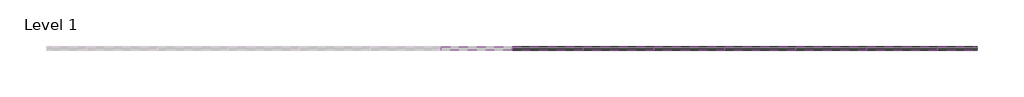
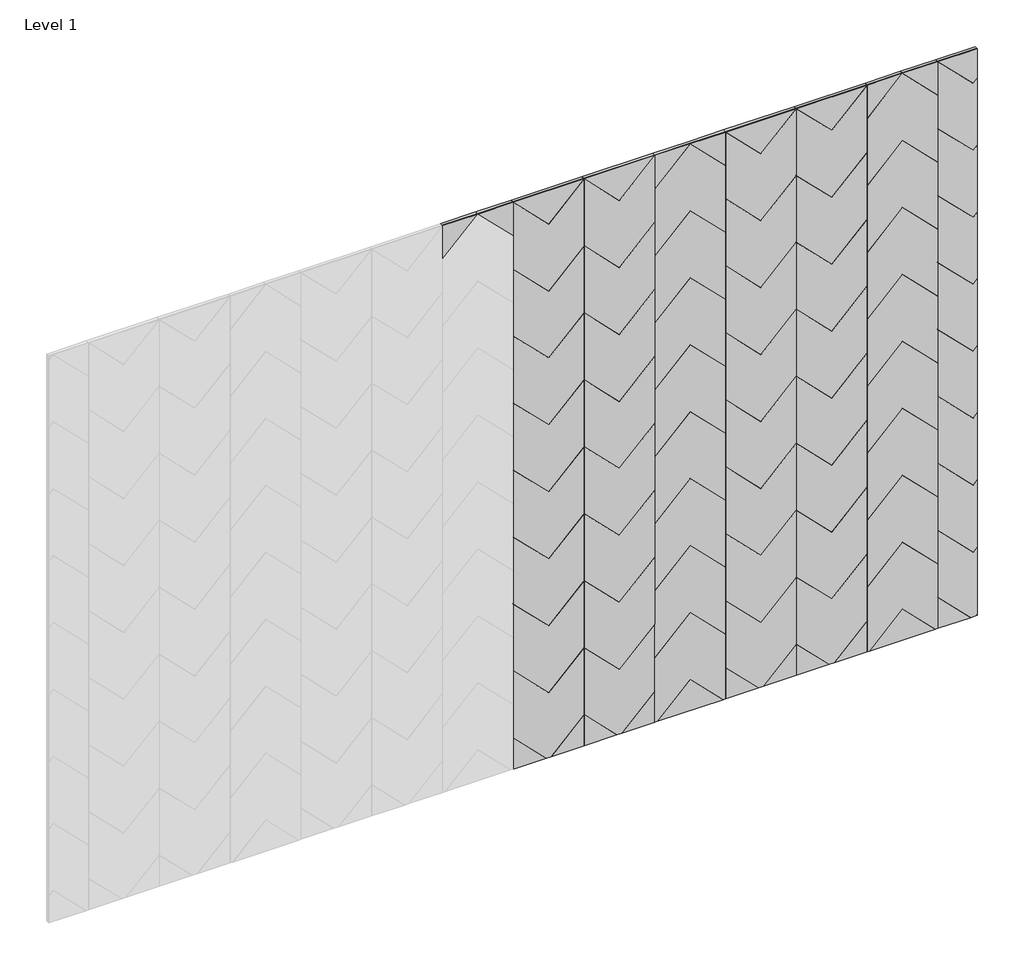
# One storey, part 2 of 2: 71 proxies.
"""IFC4 building model written with IfcOpenShell, lengths in millimetres."""

from ifc_helpers import new_model, si_unit, origin, place, context, project, spatial, transform, mapped, element, save
from components import dart_block_84291ee9, dart_block_d6e125e5, dart_block_31c125ed, dart_block_6d389e56, dart_block_a08385c4, dart_block_7aee04b3, dart_block_84e837c1, dart_block_36aabd5a, dart_block_a8ea429b, dart_block_5830dce5, dart_block_3c974cb8

model = new_model("IFC4")

# Units and contexts
model_context = context("Model", 3, world=origin())
ifc_project = project(units=[si_unit("LENGTHUNIT", "METRE", prefix="MILLI")], contexts=[model_context])

# Site, building, storey
site = spatial("IfcSite", under=ifc_project)
building = spatial("IfcBuilding", under=site)
storey = spatial("IfcBuildingStorey", under=building, Name="Level 1", Elevation=0.0)

# Proxies
placement = place(None, origin())
dart_block_shape = dart_block_84291ee9(model_context)
element("IfcBuildingElementProxy", 1, Name="FilzFelt_Dart_Block : Dart Block", ObjectType="FilzFelt_Dart_Block : Dart Block", at=placement, inside=storey, context=model_context, shape_type="MappedRepresentation", body=[
    mapped(dart_block_shape, transform((7278.9916002, -10315.1339335, 477.5), x_axis=(-1.0, 0.0, 0.0), y_axis=(0.0, 0.0, -1.0), z_axis=(0.0, -1.0, 0.0))),
])
element("IfcBuildingElementProxy", 2, Name="FilzFelt_Dart_Block : Dart Block", ObjectType="FilzFelt_Dart_Block : Dart Block", at=placement, inside=storey, context=model_context, shape_type="MappedRepresentation", body=[
    mapped(dart_block_shape, transform((7786.9916002, -10315.1339335, 477.5), x_axis=(-1.0, 0.0, 0.0), y_axis=(0.0, 0.0, -1.0), z_axis=(0.0, -1.0, 0.0))),
])
dart_block_2_shape = dart_block_d6e125e5(model_context)
element("IfcBuildingElementProxy", 3, Name="FilzFelt_Dart_Block : Dart Block", ObjectType="FilzFelt_Dart_Block : Dart Block", at=placement, inside=storey, context=model_context, shape_type="MappedRepresentation", body=[
    mapped(dart_block_2_shape, transform((7278.9916002, -10315.1339335, 731.5), x_axis=(-1.0, 0.0, 0.0), y_axis=(0.0, 0.0, -1.0), z_axis=(0.0, -1.0, 0.0))),
])
element("IfcBuildingElementProxy", 4, Name="FilzFelt_Dart_Block : Dart Block", ObjectType="FilzFelt_Dart_Block : Dart Block", at=placement, inside=storey, context=model_context, shape_type="MappedRepresentation", body=[
    mapped(dart_block_2_shape, transform((7786.9916002, -10315.1339335, 731.5), x_axis=(-1.0, 0.0, 0.0), y_axis=(0.0, 0.0, -1.0), z_axis=(0.0, -1.0, 0.0))),
])
dart_block_3_shape = dart_block_31c125ed(model_context)
element("IfcBuildingElementProxy", 5, Name="FilzFelt_Dart_Block : Dart Block", ObjectType="FilzFelt_Dart_Block : Dart Block", at=placement, inside=storey, context=model_context, shape_type="MappedRepresentation", body=[
    mapped(dart_block_3_shape, transform((7024.9916002, -10315.1339335, 1239.5), x_axis=(-1.0, 0.0, 0.0), y_axis=(0.0, 0.0, -1.0), z_axis=(0.0, -1.0, 0.0))),
])
element("IfcBuildingElementProxy", 6, Name="FilzFelt_Dart_Block : Dart Block", ObjectType="FilzFelt_Dart_Block : Dart Block", at=placement, inside=storey, context=model_context, shape_type="MappedRepresentation", body=[
    mapped(dart_block_3_shape, transform((7024.9916002, -10315.1339335, 1747.5), x_axis=(-1.0, 0.0, 0.0), y_axis=(0.0, 0.0, -1.0), z_axis=(0.0, -1.0, 0.0))),
])
element("IfcBuildingElementProxy", 7, Name="FilzFelt_Dart_Block : Dart Block", ObjectType="FilzFelt_Dart_Block : Dart Block", at=placement, inside=storey, context=model_context, shape_type="MappedRepresentation", body=[
    mapped(dart_block_3_shape, transform((7024.9916002, -10315.1339335, 2255.5), x_axis=(-1.0, 0.0, 0.0), y_axis=(0.0, 0.0, -1.0), z_axis=(0.0, -1.0, 0.0))),
])
element("IfcBuildingElementProxy", 8, Name="FilzFelt_Dart_Block : Dart Block", ObjectType="FilzFelt_Dart_Block : Dart Block", at=placement, inside=storey, context=model_context, shape_type="MappedRepresentation", body=[
    mapped(dart_block_3_shape, transform((7278.9916002, -10315.1339335, 985.5), x_axis=(-1.0, 0.0, 0.0), y_axis=(0.0, 0.0, -1.0), z_axis=(0.0, -1.0, 0.0))),
])
element("IfcBuildingElementProxy", 9, Name="FilzFelt_Dart_Block : Dart Block", ObjectType="FilzFelt_Dart_Block : Dart Block", at=placement, inside=storey, context=model_context, shape_type="MappedRepresentation", body=[
    mapped(dart_block_3_shape, transform((7278.9916002, -10315.1339335, 1493.5), x_axis=(-1.0, 0.0, 0.0), y_axis=(0.0, 0.0, -1.0), z_axis=(0.0, -1.0, 0.0))),
])
element("IfcBuildingElementProxy", 10, Name="FilzFelt_Dart_Block : Dart Block", ObjectType="FilzFelt_Dart_Block : Dart Block", at=placement, inside=storey, context=model_context, shape_type="MappedRepresentation", body=[
    mapped(dart_block_3_shape, transform((7278.9916002, -10315.1339335, 2001.5), x_axis=(-1.0, 0.0, 0.0), y_axis=(0.0, 0.0, -1.0), z_axis=(0.0, -1.0, 0.0))),
])
element("IfcBuildingElementProxy", 11, Name="FilzFelt_Dart_Block : Dart Block", ObjectType="FilzFelt_Dart_Block : Dart Block", at=placement, inside=storey, context=model_context, shape_type="MappedRepresentation", body=[
    mapped(dart_block_3_shape, transform((7278.9916002, -10315.1339335, 2509.5), x_axis=(-1.0, 0.0, 0.0), y_axis=(0.0, 0.0, -1.0), z_axis=(0.0, -1.0, 0.0))),
])
element("IfcBuildingElementProxy", 12, Name="FilzFelt_Dart_Block : Dart Block", ObjectType="FilzFelt_Dart_Block : Dart Block", at=placement, inside=storey, context=model_context, shape_type="MappedRepresentation", body=[
    mapped(dart_block_3_shape, transform((7532.9916002, -10315.1339335, 2255.5), x_axis=(1.0, 0.0, 0.0), y_axis=(0.0, 0.0, 1.0), z_axis=(0.0, -1.0, 0.0))),
])
element("IfcBuildingElementProxy", 13, Name="FilzFelt_Dart_Block : Dart Block", ObjectType="FilzFelt_Dart_Block : Dart Block", at=placement, inside=storey, context=model_context, shape_type="MappedRepresentation", body=[
    mapped(dart_block_3_shape, transform((7532.9916002, -10315.1339335, 1747.5), x_axis=(1.0, 0.0, 0.0), y_axis=(0.0, 0.0, 1.0), z_axis=(0.0, -1.0, 0.0))),
])
element("IfcBuildingElementProxy", 14, Name="FilzFelt_Dart_Block : Dart Block", ObjectType="FilzFelt_Dart_Block : Dart Block", at=placement, inside=storey, context=model_context, shape_type="MappedRepresentation", body=[
    mapped(dart_block_3_shape, transform((7532.9916002, -10315.1339335, 1239.5), x_axis=(1.0, 0.0, 0.0), y_axis=(0.0, 0.0, 1.0), z_axis=(0.0, -1.0, 0.0))),
])
element("IfcBuildingElementProxy", 15, Name="FilzFelt_Dart_Block : Dart Block", ObjectType="FilzFelt_Dart_Block : Dart Block", at=placement, inside=storey, context=model_context, shape_type="MappedRepresentation", body=[
    mapped(dart_block_3_shape, transform((7786.9916002, -10315.1339335, 985.5), x_axis=(-1.0, 0.0, 0.0), y_axis=(0.0, 0.0, -1.0), z_axis=(0.0, -1.0, 0.0))),
])
element("IfcBuildingElementProxy", 16, Name="FilzFelt_Dart_Block : Dart Block", ObjectType="FilzFelt_Dart_Block : Dart Block", at=placement, inside=storey, context=model_context, shape_type="MappedRepresentation", body=[
    mapped(dart_block_3_shape, transform((7786.9916002, -10315.1339335, 1493.5), x_axis=(-1.0, 0.0, 0.0), y_axis=(0.0, 0.0, -1.0), z_axis=(0.0, -1.0, 0.0))),
])
element("IfcBuildingElementProxy", 17, Name="FilzFelt_Dart_Block : Dart Block", ObjectType="FilzFelt_Dart_Block : Dart Block", at=placement, inside=storey, context=model_context, shape_type="MappedRepresentation", body=[
    mapped(dart_block_3_shape, transform((7786.9916002, -10315.1339335, 2001.5), x_axis=(-1.0, 0.0, 0.0), y_axis=(0.0, 0.0, -1.0), z_axis=(0.0, -1.0, 0.0))),
])
element("IfcBuildingElementProxy", 18, Name="FilzFelt_Dart_Block : Dart Block", ObjectType="FilzFelt_Dart_Block : Dart Block", at=placement, inside=storey, context=model_context, shape_type="MappedRepresentation", body=[
    mapped(dart_block_3_shape, transform((7786.9916002, -10315.1339335, 2509.5), x_axis=(-1.0, 0.0, 0.0), y_axis=(0.0, 0.0, -1.0), z_axis=(0.0, -1.0, 0.0))),
])
element("IfcBuildingElementProxy", 19, Name="FilzFelt_Dart_Block : Dart Block", ObjectType="FilzFelt_Dart_Block : Dart Block", at=placement, inside=storey, context=model_context, shape_type="MappedRepresentation", body=[
    mapped(dart_block_3_shape, transform((8040.9916002, -10315.1339335, 1239.5), x_axis=(-1.0, 0.0, 0.0), y_axis=(0.0, 0.0, -1.0), z_axis=(0.0, -1.0, 0.0))),
])
element("IfcBuildingElementProxy", 20, Name="FilzFelt_Dart_Block : Dart Block", ObjectType="FilzFelt_Dart_Block : Dart Block", at=placement, inside=storey, context=model_context, shape_type="MappedRepresentation", body=[
    mapped(dart_block_3_shape, transform((8040.9916002, -10315.1339335, 1747.5), x_axis=(-1.0, 0.0, 0.0), y_axis=(0.0, 0.0, -1.0), z_axis=(0.0, -1.0, 0.0))),
])
element("IfcBuildingElementProxy", 21, Name="FilzFelt_Dart_Block : Dart Block", ObjectType="FilzFelt_Dart_Block : Dart Block", at=placement, inside=storey, context=model_context, shape_type="MappedRepresentation", body=[
    mapped(dart_block_3_shape, transform((8040.9916002, -10315.1339335, 2255.5), x_axis=(-1.0, 0.0, 0.0), y_axis=(0.0, 0.0, -1.0), z_axis=(0.0, -1.0, 0.0))),
])
element("IfcBuildingElementProxy", 22, Name="FilzFelt_Dart_Block : Dart Block", ObjectType="FilzFelt_Dart_Block : Dart Block", at=placement, inside=storey, context=model_context, shape_type="MappedRepresentation", body=[
    mapped(dart_block_3_shape, transform((8294.9916002, -10315.1339335, 2509.5), x_axis=(1.0, 0.0, 0.0), y_axis=(0.0, 0.0, 1.0), z_axis=(0.0, -1.0, 0.0))),
])
element("IfcBuildingElementProxy", 23, Name="FilzFelt_Dart_Block : Dart Block", ObjectType="FilzFelt_Dart_Block : Dart Block", at=placement, inside=storey, context=model_context, shape_type="MappedRepresentation", body=[
    mapped(dart_block_3_shape, transform((8294.9916002, -10315.1339335, 2001.5), x_axis=(1.0, 0.0, 0.0), y_axis=(0.0, 0.0, 1.0), z_axis=(0.0, -1.0, 0.0))),
])
element("IfcBuildingElementProxy", 24, Name="FilzFelt_Dart_Block : Dart Block", ObjectType="FilzFelt_Dart_Block : Dart Block", at=placement, inside=storey, context=model_context, shape_type="MappedRepresentation", body=[
    mapped(dart_block_3_shape, transform((8294.9916002, -10315.1339335, 1493.5), x_axis=(1.0, 0.0, 0.0), y_axis=(0.0, 0.0, 1.0), z_axis=(0.0, -1.0, 0.0))),
])
element("IfcBuildingElementProxy", 25, Name="FilzFelt_Dart_Block : Dart Block", ObjectType="FilzFelt_Dart_Block : Dart Block", at=placement, inside=storey, context=model_context, shape_type="MappedRepresentation", body=[
    mapped(dart_block_3_shape, transform((8294.9916002, -10315.1339335, 985.5), x_axis=(1.0, 0.0, 0.0), y_axis=(0.0, 0.0, 1.0), z_axis=(0.0, -1.0, 0.0))),
])
element("IfcBuildingElementProxy", 26, Name="FilzFelt_Dart_Block : Dart Block", ObjectType="FilzFelt_Dart_Block : Dart Block", at=placement, inside=storey, context=model_context, shape_type="MappedRepresentation", body=[
    mapped(dart_block_3_shape, transform((7024.9916002, -10315.1339335, 2509.5), x_axis=(-1.0, 0.0, 0.0), y_axis=(0.0, 0.0, -1.0), z_axis=(0.0, -1.0, 0.0))),
])
element("IfcBuildingElementProxy", 27, Name="FilzFelt_Dart_Block : Dart Block", ObjectType="FilzFelt_Dart_Block : Dart Block", at=placement, inside=storey, context=model_context, shape_type="MappedRepresentation", body=[
    mapped(dart_block_3_shape, transform((7024.9916002, -10315.1339335, 985.5), x_axis=(-1.0, 0.0, 0.0), y_axis=(0.0, 0.0, -1.0), z_axis=(0.0, -1.0, 0.0))),
])
element("IfcBuildingElementProxy", 28, Name="FilzFelt_Dart_Block : Dart Block", ObjectType="FilzFelt_Dart_Block : Dart Block", at=placement, inside=storey, context=model_context, shape_type="MappedRepresentation", body=[
    mapped(dart_block_3_shape, transform((7024.9916002, -10315.1339335, 1493.5), x_axis=(-1.0, 0.0, 0.0), y_axis=(0.0, 0.0, -1.0), z_axis=(0.0, -1.0, 0.0))),
])
element("IfcBuildingElementProxy", 29, Name="FilzFelt_Dart_Block : Dart Block", ObjectType="FilzFelt_Dart_Block : Dart Block", at=placement, inside=storey, context=model_context, shape_type="MappedRepresentation", body=[
    mapped(dart_block_3_shape, transform((7024.9916002, -10315.1339335, 2001.5), x_axis=(-1.0, 0.0, 0.0), y_axis=(0.0, 0.0, -1.0), z_axis=(0.0, -1.0, 0.0))),
])
element("IfcBuildingElementProxy", 30, Name="FilzFelt_Dart_Block : Dart Block", ObjectType="FilzFelt_Dart_Block : Dart Block", at=placement, inside=storey, context=model_context, shape_type="MappedRepresentation", body=[
    mapped(dart_block_3_shape, transform((7278.9916002, -10315.1339335, 1239.5), x_axis=(-1.0, 0.0, 0.0), y_axis=(0.0, 0.0, -1.0), z_axis=(0.0, -1.0, 0.0))),
])
element("IfcBuildingElementProxy", 31, Name="FilzFelt_Dart_Block : Dart Block", ObjectType="FilzFelt_Dart_Block : Dart Block", at=placement, inside=storey, context=model_context, shape_type="MappedRepresentation", body=[
    mapped(dart_block_3_shape, transform((7278.9916002, -10315.1339335, 1747.5), x_axis=(-1.0, 0.0, 0.0), y_axis=(0.0, 0.0, -1.0), z_axis=(0.0, -1.0, 0.0))),
])
element("IfcBuildingElementProxy", 32, Name="FilzFelt_Dart_Block : Dart Block", ObjectType="FilzFelt_Dart_Block : Dart Block", at=placement, inside=storey, context=model_context, shape_type="MappedRepresentation", body=[
    mapped(dart_block_3_shape, transform((7278.9916002, -10315.1339335, 2255.5), x_axis=(-1.0, 0.0, 0.0), y_axis=(0.0, 0.0, -1.0), z_axis=(0.0, -1.0, 0.0))),
])
element("IfcBuildingElementProxy", 33, Name="FilzFelt_Dart_Block : Dart Block", ObjectType="FilzFelt_Dart_Block : Dart Block", at=placement, inside=storey, context=model_context, shape_type="MappedRepresentation", body=[
    mapped(dart_block_3_shape, transform((7532.9916002, -10315.1339335, 2509.5), x_axis=(1.0, 0.0, 0.0), y_axis=(0.0, 0.0, 1.0), z_axis=(0.0, -1.0, 0.0))),
])
element("IfcBuildingElementProxy", 34, Name="FilzFelt_Dart_Block : Dart Block", ObjectType="FilzFelt_Dart_Block : Dart Block", at=placement, inside=storey, context=model_context, shape_type="MappedRepresentation", body=[
    mapped(dart_block_3_shape, transform((7532.9916002, -10315.1339335, 2001.5), x_axis=(1.0, 0.0, 0.0), y_axis=(0.0, 0.0, 1.0), z_axis=(0.0, -1.0, 0.0))),
])
element("IfcBuildingElementProxy", 35, Name="FilzFelt_Dart_Block : Dart Block", ObjectType="FilzFelt_Dart_Block : Dart Block", at=placement, inside=storey, context=model_context, shape_type="MappedRepresentation", body=[
    mapped(dart_block_3_shape, transform((7532.9916002, -10315.1339335, 1493.5), x_axis=(1.0, 0.0, 0.0), y_axis=(0.0, 0.0, 1.0), z_axis=(0.0, -1.0, 0.0))),
])
element("IfcBuildingElementProxy", 36, Name="FilzFelt_Dart_Block : Dart Block", ObjectType="FilzFelt_Dart_Block : Dart Block", at=placement, inside=storey, context=model_context, shape_type="MappedRepresentation", body=[
    mapped(dart_block_3_shape, transform((7532.9916002, -10315.1339335, 985.5), x_axis=(1.0, 0.0, 0.0), y_axis=(0.0, 0.0, 1.0), z_axis=(0.0, -1.0, 0.0))),
])
element("IfcBuildingElementProxy", 37, Name="FilzFelt_Dart_Block : Dart Block", ObjectType="FilzFelt_Dart_Block : Dart Block", at=placement, inside=storey, context=model_context, shape_type="MappedRepresentation", body=[
    mapped(dart_block_3_shape, transform((7786.9916002, -10315.1339335, 1239.5), x_axis=(-1.0, 0.0, 0.0), y_axis=(0.0, 0.0, -1.0), z_axis=(0.0, -1.0, 0.0))),
])
element("IfcBuildingElementProxy", 38, Name="FilzFelt_Dart_Block : Dart Block", ObjectType="FilzFelt_Dart_Block : Dart Block", at=placement, inside=storey, context=model_context, shape_type="MappedRepresentation", body=[
    mapped(dart_block_3_shape, transform((7786.9916002, -10315.1339335, 1747.5), x_axis=(-1.0, 0.0, 0.0), y_axis=(0.0, 0.0, -1.0), z_axis=(0.0, -1.0, 0.0))),
])
element("IfcBuildingElementProxy", 39, Name="FilzFelt_Dart_Block : Dart Block", ObjectType="FilzFelt_Dart_Block : Dart Block", at=placement, inside=storey, context=model_context, shape_type="MappedRepresentation", body=[
    mapped(dart_block_3_shape, transform((7786.9916002, -10315.1339335, 2255.5), x_axis=(-1.0, 0.0, 0.0), y_axis=(0.0, 0.0, -1.0), z_axis=(0.0, -1.0, 0.0))),
])
element("IfcBuildingElementProxy", 40, Name="FilzFelt_Dart_Block : Dart Block", ObjectType="FilzFelt_Dart_Block : Dart Block", at=placement, inside=storey, context=model_context, shape_type="MappedRepresentation", body=[
    mapped(dart_block_3_shape, transform((8040.9916002, -10315.1339335, 985.5), x_axis=(-1.0, 0.0, 0.0), y_axis=(0.0, 0.0, -1.0), z_axis=(0.0, -1.0, 0.0))),
])
element("IfcBuildingElementProxy", 41, Name="FilzFelt_Dart_Block : Dart Block", ObjectType="FilzFelt_Dart_Block : Dart Block", at=placement, inside=storey, context=model_context, shape_type="MappedRepresentation", body=[
    mapped(dart_block_3_shape, transform((8040.9916002, -10315.1339335, 1493.5), x_axis=(-1.0, 0.0, 0.0), y_axis=(0.0, 0.0, -1.0), z_axis=(0.0, -1.0, 0.0))),
])
element("IfcBuildingElementProxy", 42, Name="FilzFelt_Dart_Block : Dart Block", ObjectType="FilzFelt_Dart_Block : Dart Block", at=placement, inside=storey, context=model_context, shape_type="MappedRepresentation", body=[
    mapped(dart_block_3_shape, transform((8040.9916002, -10315.1339335, 2001.5), x_axis=(-1.0, 0.0, 0.0), y_axis=(0.0, 0.0, -1.0), z_axis=(0.0, -1.0, 0.0))),
])
element("IfcBuildingElementProxy", 43, Name="FilzFelt_Dart_Block : Dart Block", ObjectType="FilzFelt_Dart_Block : Dart Block", at=placement, inside=storey, context=model_context, shape_type="MappedRepresentation", body=[
    mapped(dart_block_3_shape, transform((8040.9916002, -10315.1339335, 2509.5), x_axis=(-1.0, 0.0, 0.0), y_axis=(0.0, 0.0, -1.0), z_axis=(0.0, -1.0, 0.0))),
])
element("IfcBuildingElementProxy", 44, Name="FilzFelt_Dart_Block : Dart Block", ObjectType="FilzFelt_Dart_Block : Dart Block", at=placement, inside=storey, context=model_context, shape_type="MappedRepresentation", body=[
    mapped(dart_block_3_shape, transform((8294.9916002, -10315.1339335, 2255.5), x_axis=(1.0, 0.0, 0.0), y_axis=(0.0, 0.0, 1.0), z_axis=(0.0, -1.0, 0.0))),
])
element("IfcBuildingElementProxy", 45, Name="FilzFelt_Dart_Block : Dart Block", ObjectType="FilzFelt_Dart_Block : Dart Block", at=placement, inside=storey, context=model_context, shape_type="MappedRepresentation", body=[
    mapped(dart_block_3_shape, transform((8294.9916002, -10315.1339335, 1747.5), x_axis=(1.0, 0.0, 0.0), y_axis=(0.0, 0.0, 1.0), z_axis=(0.0, -1.0, 0.0))),
])
element("IfcBuildingElementProxy", 46, Name="FilzFelt_Dart_Block : Dart Block", ObjectType="FilzFelt_Dart_Block : Dart Block", at=placement, inside=storey, context=model_context, shape_type="MappedRepresentation", body=[
    mapped(dart_block_3_shape, transform((8294.9916002, -10315.1339335, 1239.5), x_axis=(1.0, 0.0, 0.0), y_axis=(0.0, 0.0, 1.0), z_axis=(0.0, -1.0, 0.0))),
])
dart_block_4_shape = dart_block_6d389e56(model_context)
element("IfcBuildingElementProxy", 47, Name="FilzFelt_Dart_Block : Dart Block", ObjectType="FilzFelt_Dart_Block : Dart Block", at=placement, inside=storey, context=model_context, shape_type="MappedRepresentation", body=[
    mapped(dart_block_4_shape, transform((7278.9916002, -10315.1339335, 2763.5), x_axis=(-1.0, 0.0, 0.0), y_axis=(0.0, 0.0, -1.0), z_axis=(0.0, -1.0, 0.0))),
])
element("IfcBuildingElementProxy", 48, Name="FilzFelt_Dart_Block : Dart Block", ObjectType="FilzFelt_Dart_Block : Dart Block", at=placement, inside=storey, context=model_context, shape_type="MappedRepresentation", body=[
    mapped(dart_block_4_shape, transform((7786.9916002, -10315.1339335, 2763.5), x_axis=(-1.0, 0.0, 0.0), y_axis=(0.0, 0.0, -1.0), z_axis=(0.0, -1.0, 0.0))),
])
element("IfcBuildingElementProxy", 49, Name="FilzFelt_Dart_Block : Dart Block", ObjectType="FilzFelt_Dart_Block : Dart Block", at=placement, inside=storey, context=model_context, shape_type="MappedRepresentation", body=[
    mapped(dart_block_shape, transform((7024.9916002, -10315.1339335, 477.5), x_axis=(-1.0, 0.0, 0.0), y_axis=(0.0, 0.0, -1.0), z_axis=(0.0, -1.0, 0.0))),
])
element("IfcBuildingElementProxy", 50, Name="FilzFelt_Dart_Block : Dart Block", ObjectType="FilzFelt_Dart_Block : Dart Block", at=placement, inside=storey, context=model_context, shape_type="MappedRepresentation", body=[
    mapped(dart_block_shape, transform((8040.9916002, -10315.1339335, 477.5), x_axis=(-1.0, 0.0, 0.0), y_axis=(0.0, 0.0, -1.0), z_axis=(0.0, -1.0, 0.0))),
])
element("IfcBuildingElementProxy", 51, Name="FilzFelt_Dart_Block : Dart Block", ObjectType="FilzFelt_Dart_Block : Dart Block", at=placement, inside=storey, context=model_context, shape_type="MappedRepresentation", body=[
    mapped(dart_block_2_shape, transform((7024.9916002, -10315.1339335, 731.5), x_axis=(-1.0, 0.0, 0.0), y_axis=(0.0, 0.0, -1.0), z_axis=(0.0, -1.0, 0.0))),
])
element("IfcBuildingElementProxy", 52, Name="FilzFelt_Dart_Block : Dart Block", ObjectType="FilzFelt_Dart_Block : Dart Block", at=placement, inside=storey, context=model_context, shape_type="MappedRepresentation", body=[
    mapped(dart_block_2_shape, transform((8040.9916002, -10315.1339335, 731.5), x_axis=(-1.0, 0.0, 0.0), y_axis=(0.0, 0.0, -1.0), z_axis=(0.0, -1.0, 0.0))),
])
element("IfcBuildingElementProxy", 53, Name="FilzFelt_Dart_Block : Dart Block", ObjectType="FilzFelt_Dart_Block : Dart Block", at=placement, inside=storey, context=model_context, shape_type="MappedRepresentation", body=[
    mapped(dart_block_4_shape, transform((7024.9916002, -10315.1339335, 2763.5), x_axis=(-1.0, 0.0, 0.0), y_axis=(0.0, 0.0, -1.0), z_axis=(0.0, -1.0, 0.0))),
])
element("IfcBuildingElementProxy", 54, Name="FilzFelt_Dart_Block : Dart Block", ObjectType="FilzFelt_Dart_Block : Dart Block", at=placement, inside=storey, context=model_context, shape_type="MappedRepresentation", body=[
    mapped(dart_block_4_shape, transform((8040.9916002, -10315.1339335, 2763.5), x_axis=(-1.0, 0.0, 0.0), y_axis=(0.0, 0.0, -1.0), z_axis=(0.0, -1.0, 0.0))),
])
dart_block_5_shape = dart_block_a08385c4(model_context)
element("IfcBuildingElementProxy", 55, Name="FilzFelt_Dart_Block : Dart Block", ObjectType="FilzFelt_Dart_Block : Dart Block", at=placement, inside=storey, context=model_context, shape_type="MappedRepresentation", body=[
    mapped(dart_block_5_shape, transform((8294.9916002, -10315.1339335, 731.5), x_axis=(1.0, 0.0, 0.0), y_axis=(0.0, 0.0, 1.0), z_axis=(0.0, -1.0, 0.0))),
])
dart_block_6_shape = dart_block_7aee04b3(model_context)
element("IfcBuildingElementProxy", 56, Name="FilzFelt_Dart_Block : Dart Block", ObjectType="FilzFelt_Dart_Block : Dart Block", at=placement, inside=storey, context=model_context, shape_type="MappedRepresentation", body=[
    mapped(dart_block_6_shape, transform((8294.9916002, -10315.1339335, 477.5), x_axis=(1.0, 0.0, 0.0), y_axis=(0.0, 0.0, 1.0), z_axis=(0.0, -1.0, 0.0))),
])
dart_block_7_shape = dart_block_84e837c1(model_context)
element("IfcBuildingElementProxy", 57, Name="FilzFelt_Dart_Block : Dart Block", ObjectType="FilzFelt_Dart_Block : Dart Block", at=placement, inside=storey, context=model_context, shape_type="MappedRepresentation", body=[
    mapped(dart_block_7_shape, transform((6770.9916002, -10315.1339335, 2763.5), x_axis=(1.0, 0.0, 0.0), y_axis=(0.0, 0.0, 1.0), z_axis=(0.0, -1.0, 0.0))),
])
element("IfcBuildingElementProxy", 58, Name="FilzFelt_Dart_Block : Dart Block", ObjectType="FilzFelt_Dart_Block : Dart Block", at=placement, inside=storey, context=model_context, shape_type="MappedRepresentation", body=[
    mapped(dart_block_7_shape, transform((8294.9916002, -10315.1339335, 2763.5), x_axis=(1.0, 0.0, 0.0), y_axis=(0.0, 0.0, 1.0), z_axis=(0.0, -1.0, 0.0))),
])
element("IfcBuildingElementProxy", 59, Name="FilzFelt_Dart_Block : Dart Block", ObjectType="FilzFelt_Dart_Block : Dart Block", at=placement, inside=storey, context=model_context, shape_type="MappedRepresentation", body=[
    mapped(dart_block_7_shape, transform((7532.9916002, -10315.1339335, 2763.5), x_axis=(1.0, 0.0, 0.0), y_axis=(0.0, 0.0, 1.0), z_axis=(0.0, -1.0, 0.0))),
])
element("IfcBuildingElementProxy", 60, Name="FilzFelt_Dart_Block : Dart Block", ObjectType="FilzFelt_Dart_Block : Dart Block", at=placement, inside=storey, context=model_context, shape_type="MappedRepresentation", body=[
    mapped(dart_block_5_shape, transform((7532.9916002, -10315.1339335, 731.5), x_axis=(1.0, 0.0, 0.0), y_axis=(0.0, 0.0, 1.0), z_axis=(0.0, -1.0, 0.0))),
])
dart_block_8_shape = dart_block_36aabd5a(model_context)
element("IfcBuildingElementProxy", 61, Name="FilzFelt_Dart_Block : Dart Block", ObjectType="FilzFelt_Dart_Block : Dart Block", at=placement, inside=storey, context=model_context, shape_type="MappedRepresentation", body=[
    mapped(dart_block_8_shape, transform((8548.9916002, -10315.1339335, 985.5), x_axis=(-1.0, 0.0, 0.0), y_axis=(0.0, 0.0, -1.0), z_axis=(0.0, -1.0, 0.0))),
])
element("IfcBuildingElementProxy", 62, Name="FilzFelt_Dart_Block : Dart Block", ObjectType="FilzFelt_Dart_Block : Dart Block", at=placement, inside=storey, context=model_context, shape_type="MappedRepresentation", body=[
    mapped(dart_block_8_shape, transform((8548.9916002, -10315.1339335, 1493.5), x_axis=(-1.0, 0.0, 0.0), y_axis=(0.0, 0.0, -1.0), z_axis=(0.0, -1.0, 0.0))),
])
element("IfcBuildingElementProxy", 63, Name="FilzFelt_Dart_Block : Dart Block", ObjectType="FilzFelt_Dart_Block : Dart Block", at=placement, inside=storey, context=model_context, shape_type="MappedRepresentation", body=[
    mapped(dart_block_8_shape, transform((8548.9916002, -10315.1339335, 2001.5), x_axis=(-1.0, 0.0, 0.0), y_axis=(0.0, 0.0, -1.0), z_axis=(0.0, -1.0, 0.0))),
])
element("IfcBuildingElementProxy", 64, Name="FilzFelt_Dart_Block : Dart Block", ObjectType="FilzFelt_Dart_Block : Dart Block", at=placement, inside=storey, context=model_context, shape_type="MappedRepresentation", body=[
    mapped(dart_block_8_shape, transform((8548.9916002, -10315.1339335, 2509.5), x_axis=(-1.0, 0.0, 0.0), y_axis=(0.0, 0.0, -1.0), z_axis=(0.0, -1.0, 0.0))),
])
element("IfcBuildingElementProxy", 65, Name="FilzFelt_Dart_Block : Dart Block", ObjectType="FilzFelt_Dart_Block : Dart Block", at=placement, inside=storey, context=model_context, shape_type="MappedRepresentation", body=[
    mapped(dart_block_8_shape, transform((8548.9916002, -10315.1339335, 1239.5), x_axis=(-1.0, 0.0, 0.0), y_axis=(0.0, 0.0, -1.0), z_axis=(0.0, -1.0, 0.0))),
])
element("IfcBuildingElementProxy", 66, Name="FilzFelt_Dart_Block : Dart Block", ObjectType="FilzFelt_Dart_Block : Dart Block", at=placement, inside=storey, context=model_context, shape_type="MappedRepresentation", body=[
    mapped(dart_block_8_shape, transform((8548.9916002, -10315.1339335, 1747.5), x_axis=(-1.0, 0.0, 0.0), y_axis=(0.0, 0.0, -1.0), z_axis=(0.0, -1.0, 0.0))),
])
element("IfcBuildingElementProxy", 67, Name="FilzFelt_Dart_Block : Dart Block", ObjectType="FilzFelt_Dart_Block : Dart Block", at=placement, inside=storey, context=model_context, shape_type="MappedRepresentation", body=[
    mapped(dart_block_8_shape, transform((8548.9916002, -10315.1339335, 2255.5), x_axis=(-1.0, 0.0, 0.0), y_axis=(0.0, 0.0, -1.0), z_axis=(0.0, -1.0, 0.0))),
])
dart_block_9_shape = dart_block_a8ea429b(model_context)
element("IfcBuildingElementProxy", 68, Name="FilzFelt_Dart_Block : Dart Block", ObjectType="FilzFelt_Dart_Block : Dart Block", at=placement, inside=storey, context=model_context, shape_type="MappedRepresentation", body=[
    mapped(dart_block_9_shape, transform((8548.9916002, -10315.1339335, 2763.5), x_axis=(-1.0, 0.0, 0.0), y_axis=(0.0, 0.0, -1.0), z_axis=(0.0, -1.0, 0.0))),
])
dart_block_10_shape = dart_block_5830dce5(model_context)
element("IfcBuildingElementProxy", 69, Name="FilzFelt_Dart_Block : Dart Block", ObjectType="FilzFelt_Dart_Block : Dart Block", at=placement, inside=storey, context=model_context, shape_type="MappedRepresentation", body=[
    mapped(dart_block_10_shape, transform((8548.9916002, -10315.1339335, 731.5), x_axis=(-1.0, 0.0, 0.0), y_axis=(0.0, 0.0, -1.0), z_axis=(0.0, -1.0, 0.0))),
])
dart_block_11_shape = dart_block_3c974cb8(model_context)
element("IfcBuildingElementProxy", 70, Name="FilzFelt_Dart_Block : Dart Block", ObjectType="FilzFelt_Dart_Block : Dart Block", at=placement, inside=storey, context=model_context, shape_type="MappedRepresentation", body=[
    mapped(dart_block_11_shape, transform((8548.9916002, -10315.1339335, 477.5), x_axis=(-1.0, 0.0, 0.0), y_axis=(0.0, 0.0, -1.0), z_axis=(0.0, -1.0, 0.0))),
])
element("IfcBuildingElementProxy", 71, Name="FilzFelt_Dart_Block : Dart Block", ObjectType="FilzFelt_Dart_Block : Dart Block", at=placement, inside=storey, context=model_context, shape_type="MappedRepresentation", body=[
    mapped(dart_block_6_shape, transform((7532.9916002, -10315.1339335, 477.5), x_axis=(1.0, 0.0, 0.0), y_axis=(0.0, 0.0, 1.0), z_axis=(0.0, -1.0, 0.0))),
])

save(model, "model.ifc")
